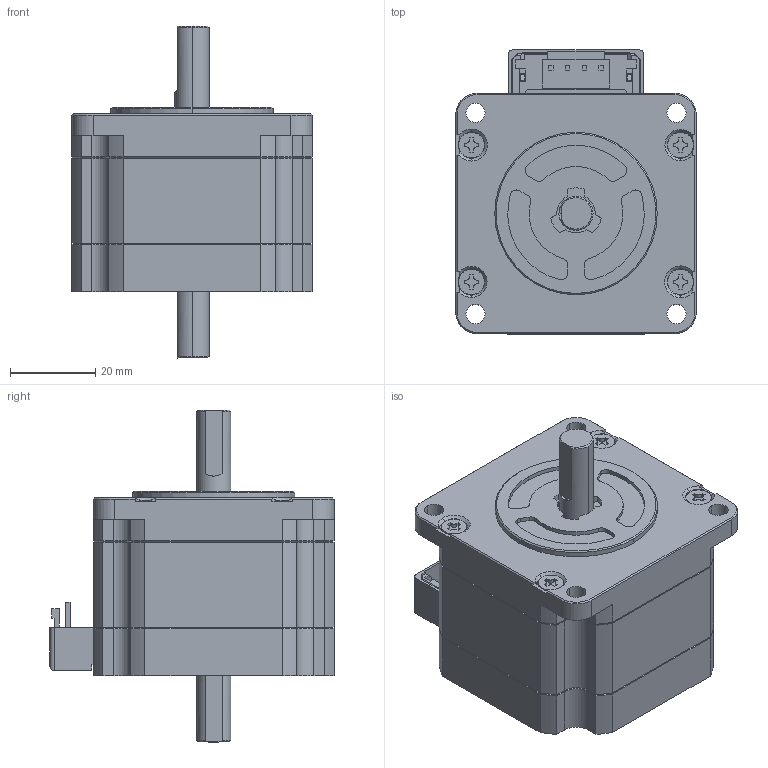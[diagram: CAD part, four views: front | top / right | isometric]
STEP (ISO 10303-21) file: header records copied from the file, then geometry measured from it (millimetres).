
FILE_DESCRIPTION (( 'STEP AP203' ), '1' );
FILE_NAME ('SM2561C10B11.STEP', '2021-05-07T07:16:37', ( '' ), ( '' ), 'SwSTEP 2.0', 'SolidWorks 2019', '' );
FILE_SCHEMA (( 'CONFIG_CONTROL_DESIGN' ));
Length unit declared in the file: millimetre
Products named in the file (11): Copy of OUTPUT SHAFT^01124130; Copy of TERMINAL^01124130; Copy of STATOR^01124130; Copy of INSULATOR_REAR^01124130_コネクタタイプ（10.1L）; Copy of SCREW^01124130; Copy of CONNECTOR^Copy of TERMINAL_01124130; SM2561C10B11; Copy of REAR COVER^01124130; Copy of SUBSTRATE^Copy of TERMINAL_01124130; Copy of COUNTER SHAFT^01124130; Copy of FRONT COVER^01124130
Assembly tree (13 placements, depth 3):
  SM2561C10B11
    Copy of FRONT COVER^01124130
    Copy of STATOR^01124130
    Copy of INSULATOR_REAR^01124130_コネクタタイプ（10.1L）
    Copy of TERMINAL^01124130
      Copy of SUBSTRATE^Copy of TERMINAL_01124130
      Copy of CONNECTOR^Copy of TERMINAL_01124130
    Copy of REAR COVER^01124130
    Copy of COUNTER SHAFT^01124130
    Copy of OUTPUT SHAFT^01124130
    Copy of SCREW^01124130  x4
Bounding box: 56.4 x 66.6 x 77.85 mm (x, y, z)
Volume: 139788 mm3; surface area: 38111 mm2
Topology: 12 solids, 12 shells, 615 faces, 1599 edges, 1030 vertices
Faces by surface type: plane 385, cylinder 158, cone 72
Entity records: 17961 total; most frequent: CARTESIAN_POINT 3057, DIRECTION 2853, ORIENTED_EDGE 2850, EDGE_CURVE 1425, VECTOR 1021, LINE 1021, VERTEX_POINT 916, AXIS2_PLACEMENT_3D 916
